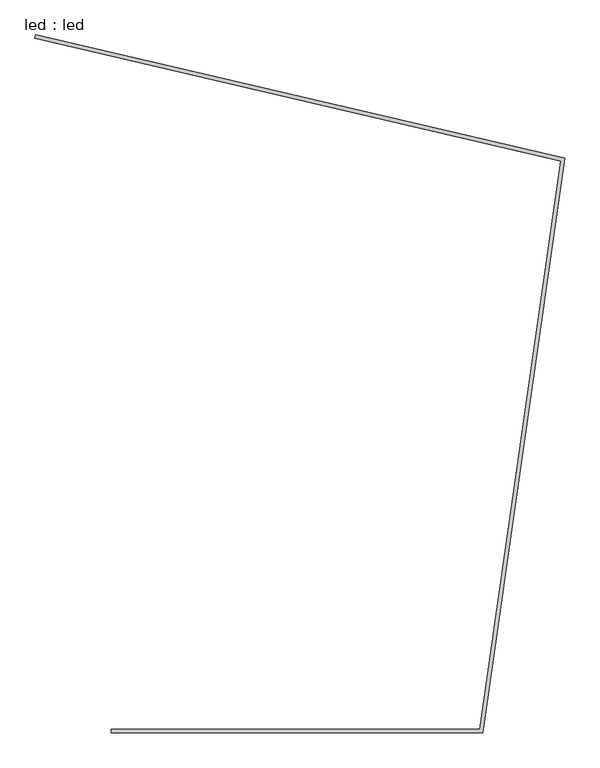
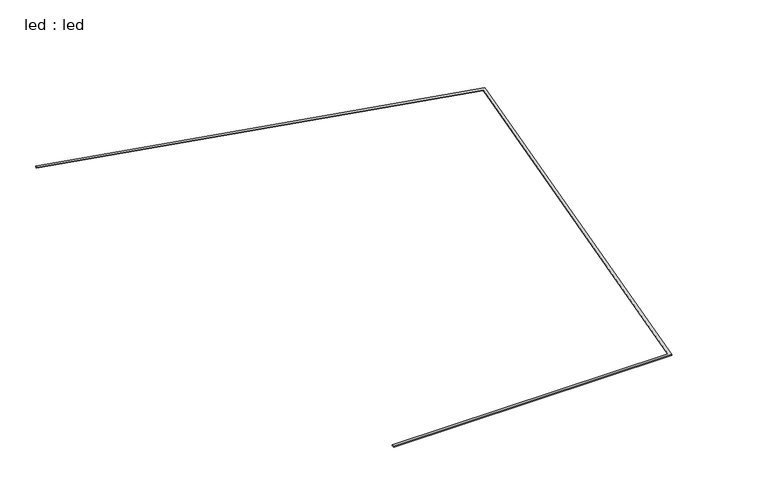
"""IFC4 building model written with IfcOpenShell, lengths in millimetres: proxy geometry, led : led."""

from ifc_helpers import new_model, si_unit, frame, origin, place, context, project, spatial, polyline, outline, extrude, source, transform, mapped, element, save


def led_led_ab5cb19d(model_context):
    return source(origin(), model_context, "Body", "SweptSolid", [
        extrude(outline(polyline([(11073.6057491, 9738.2302133), (11078.1529685, 9757.7064243), (14098.4909149, 9052.5313158), (13629.9565034, 5771.7494512), (11509.6651695, 5771.7494512), (11509.6651695, 5791.7494512), (13612.609817, 5791.7494512), (14076.1014736, 9037.2208277), (11073.6057491, 9738.2302133)])), frame((0.0, 0.0, -932.7935376), z_axis=(0.0, 0.0, 1.0), x_axis=(1.0, 0.0, 0.0)), (0.0, 0.0, 1.0), 5.0),
    ])


if __name__ == "__main__":
    model = new_model("IFC4")
    model_context = context("Model", 3, world=origin())
    ifc_project = project(units=[si_unit("LENGTHUNIT", "METRE", prefix="MILLI")], contexts=[model_context])
    site = spatial("IfcSite", under=ifc_project)
    building = spatial("IfcBuilding", under=site)
    placement = place(None, origin())
    led_led_shape = led_led_ab5cb19d(model_context)
    element("IfcBuildingElementProxy", 1, Name="led : led", ObjectType="led : led", at=placement, inside=building, context=model_context, shape_type="MappedRepresentation", body=[
        mapped(led_led_shape, transform((0.0, 0.0, 0.0), x_axis=(1.0, 0.0, 0.0), y_axis=(0.0, 1.0, 0.0), z_axis=(0.0, 0.0, 1.0))),
    ])
    save(model, "model.ifc")
